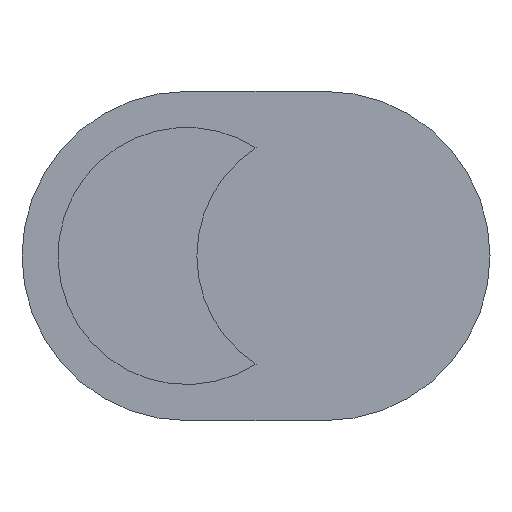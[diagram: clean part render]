
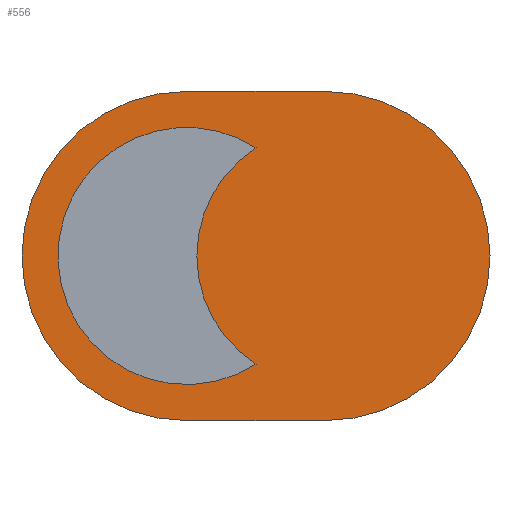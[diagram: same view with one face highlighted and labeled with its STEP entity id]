
A CAD part, front view. The second image highlights one B-rep face of the part: STEP entity #556.
In plain terms, the highlighted planar face has unit normal (0, -1, 0).
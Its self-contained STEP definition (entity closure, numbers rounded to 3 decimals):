
#254 = VERTEX_POINT( '', #665 );
#256 = EDGE_CURVE( '', #464, #254, #667, .T. );
#260 = EDGE_CURVE( '', #514, #464, #671, .T. );
#268 = EDGE_CURVE( '', #516, #600, #680, .T. );
#278 = VERTEX_POINT( '', #690 );
#284 = EDGE_CURVE( '', #278, #516, #696, .T. );
#334 = VERTEX_POINT( '', #751 );
#398 = EDGE_CURVE( '', #334, #514, #820, .T. );
#464 = VERTEX_POINT( '', #897 );
#514 = VERTEX_POINT( '', #950 );
#516 = VERTEX_POINT( '', #952 );
#556 = ADVANCED_FACE( '', ( #1004, #1005 ), #1006, .F. );
#566 = EDGE_CURVE( '', #254, #334, #1016, .T. );
#594 = EDGE_CURVE( '', #600, #278, #1047, .T. );
#600 = VERTEX_POINT( '', #1054 );
#665 = CARTESIAN_POINT( '', ( 8.5, -19.5, 57. ) );
#667 = LINE( '', #1126, #1127 );
#671 = CIRCLE( '', #1133, 32. );
#680 = CIRCLE( '', #1147, 25. );
#690 = CARTESIAN_POINT( '', ( -32., -19.5, 46.042 ) );
#696 = CIRCLE( '', #1172, 25. );
#751 = CARTESIAN_POINT( '', ( 8.5, -19.5, -7. ) );
#820 = LINE( '', #1332, #1333 );
#897 = CARTESIAN_POINT( '', ( -18.5, -19.5, 57. ) );
#950 = CARTESIAN_POINT( '', ( -18.5, -19.5, -7. ) );
#952 = CARTESIAN_POINT( '', ( -5., -19.5, 46.042 ) );
#1004 = FACE_BOUND( '', #1566, .T. );
#1005 = FACE_OUTER_BOUND( '', #1567, .T. );
#1006 = PLANE( '', #1568 );
#1016 = CIRCLE( '', #1582, 32. );
#1047 = CIRCLE( '', #1625, 25. );
#1054 = CARTESIAN_POINT( '', ( -5., -19.5, 3.958 ) );
#1126 = CARTESIAN_POINT( '', ( -18.5, -19.5, 57. ) );
#1127 = VECTOR( '', #1694, 1. );
#1133 = AXIS2_PLACEMENT_3D( '', #1698, #1699, #1700 );
#1147 = AXIS2_PLACEMENT_3D( '', #1711, #1712, #1713 );
#1172 = AXIS2_PLACEMENT_3D( '', #1723, #1724, #1725 );
#1332 = CARTESIAN_POINT( '', ( 8.5, -19.5, -7. ) );
#1333 = VECTOR( '', #1845, 1. );
#1566 = EDGE_LOOP( '', ( #2099, #2100, #2101 ) );
#1567 = EDGE_LOOP( '', ( #2102, #2103, #2104, #2105 ) );
#1568 = AXIS2_PLACEMENT_3D( '', #2106, #2107, #2108 );
#1582 = AXIS2_PLACEMENT_3D( '', #2118, #2119, #2120 );
#1625 = AXIS2_PLACEMENT_3D( '', #2156, #2157, #2158 );
#1694 = DIRECTION( '', ( 1., 0., 0. ) );
#1698 = CARTESIAN_POINT( '', ( -18.5, -19.5, 25. ) );
#1699 = DIRECTION( '', ( 0., 1., 0. ) );
#1700 = DIRECTION( '', ( 0., 0., -1. ) );
#1711 = CARTESIAN_POINT( '', ( 8.5, -19.5, 25. ) );
#1712 = DIRECTION( '', ( 0., -1., 0. ) );
#1713 = DIRECTION( '', ( -0.54, 0., 0.842 ) );
#1723 = CARTESIAN_POINT( '', ( -18.5, -19.5, 25. ) );
#1724 = DIRECTION( '', ( 0., 1., 0. ) );
#1725 = DIRECTION( '', ( 0.54, 0., -0.842 ) );
#1845 = DIRECTION( '', ( -1., 0., 0. ) );
#2099 = ORIENTED_EDGE( '', *, *, #268, .T. );
#2100 = ORIENTED_EDGE( '', *, *, #594, .T. );
#2101 = ORIENTED_EDGE( '', *, *, #284, .T. );
#2102 = ORIENTED_EDGE( '', *, *, #256, .F. );
#2103 = ORIENTED_EDGE( '', *, *, #260, .F. );
#2104 = ORIENTED_EDGE( '', *, *, #398, .F. );
#2105 = ORIENTED_EDGE( '', *, *, #566, .F. );
#2106 = CARTESIAN_POINT( '', ( 0., -19.5, 0. ) );
#2107 = DIRECTION( '', ( 0., 1., 0. ) );
#2108 = DIRECTION( '', ( 0., 0., 1. ) );
#2118 = CARTESIAN_POINT( '', ( 8.5, -19.5, 25. ) );
#2119 = DIRECTION( '', ( 0., 1., 0. ) );
#2120 = DIRECTION( '', ( 0., 0., 1. ) );
#2156 = CARTESIAN_POINT( '', ( -18.5, -19.5, 25. ) );
#2157 = DIRECTION( '', ( 0., 1., 0. ) );
#2158 = DIRECTION( '', ( 0.54, 0., -0.842 ) );
